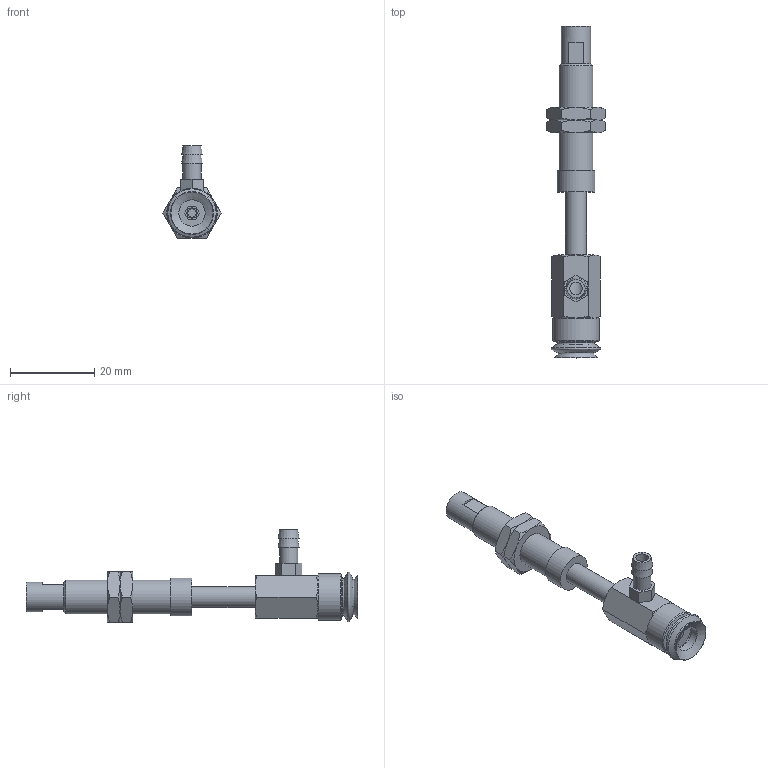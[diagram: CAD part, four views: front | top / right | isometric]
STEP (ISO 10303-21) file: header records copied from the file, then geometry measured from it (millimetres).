
FILE_DESCRIPTION(('STEP AP203'),'1');
FILE_NAME('-T.stp','2025-04-24T00:42:16',(' '),(' '),'Spatial InterOp 3D',' ',' ');
FILE_SCHEMA(('CONFIG_CONTROL_DESIGN'));
Length unit declared in the file: millimetre
Products named in the file (8): BNABPJYS-10-15-※-T; Adapter-10-NAPJ; CONNECTOR_S-10-15; NUT-NAPJ-10-15-s; NAPJTS-10-15-FBODY; NAPJTS-10-15-MBODY; BPJG-10-※; T
Assembly tree (8 placements, depth 2):
  BNABPJYS-10-15-※-T
    Adapter-10-NAPJ
    CONNECTOR_S-10-15
    NUT-NAPJ-10-15-s  x2
    NAPJTS-10-15-FBODY
    NAPJTS-10-15-MBODY
    BPJG-10-※
    T
Bounding box: 13.86 x 79 x 22 mm (x, y, z)
Volume: 4548.9 mm3; surface area: 5776.1 mm2
Topology: 8 solids, 8 shells, 154 faces, 323 edges, 198 vertices
Faces by surface type: plane 69, cone 56, cylinder 22, torus 7
Full cylindrical faces by diameter (mm): 2 x1, 2.5 x1, 3 x1, 4.134 x3, 4.3 x1, 4.6 x1, 5 x5, 6.266 x1, 7 x1, 7.188 x2, 7.8 x1, 8 x2, 9 x1, 11 x1
Entity records: 3768 total; most frequent: CARTESIAN_POINT 806, DIRECTION 546, ORIENTED_EDGE 436, AXIS2_PLACEMENT_3D 236, EDGE_CURVE 218, EDGE_LOOP 204, VERTEX_POINT 160, FACE_OUTER_BOUND 159
